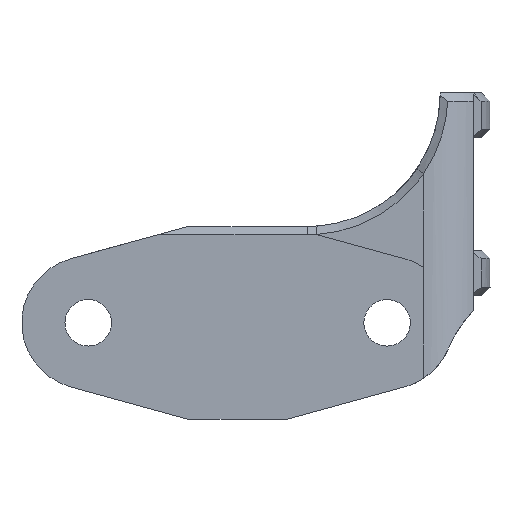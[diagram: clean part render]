
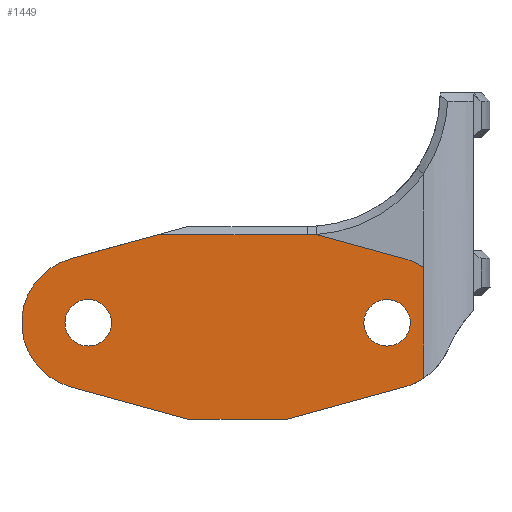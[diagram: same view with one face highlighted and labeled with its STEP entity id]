
A CAD part, front view. The second image highlights one B-rep face of the part: STEP entity #1449.
In plain terms, the highlighted planar face has unit normal (0, -1, 0).
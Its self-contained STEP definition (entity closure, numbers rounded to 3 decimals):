
#377=AXIS2_PLACEMENT_3D('Circle Axis2P3D',#375,#376,$) ;
#403=AXIS2_PLACEMENT_3D('Circle Axis2P3D',#401,#402,$) ;
#441=AXIS2_PLACEMENT_3D('Circle Axis2P3D',#439,#440,$) ;
#465=AXIS2_PLACEMENT_3D('Circle Axis2P3D',#463,#464,$) ;
#620=AXIS2_PLACEMENT_3D('Circle Axis2P3D',#618,#619,$) ;
#920=AXIS2_PLACEMENT_3D('Circle Axis2P3D',#918,#919,$) ;
#1382=AXIS2_PLACEMENT_3D('Plane Axis2P3D',#1379,#1380,#1381) ;
#1396=AXIS2_PLACEMENT_3D('Circle Axis2P3D',#1394,#1395,$) ;
#1403=AXIS2_PLACEMENT_3D('Circle Axis2P3D',#1401,#1402,$) ;
#1417=AXIS2_PLACEMENT_3D('Circle Axis2P3D',#1415,#1416,$) ;
#370=CARTESIAN_POINT('Vertex',(-27.658,-11.299,14.927)) ;
#375=CARTESIAN_POINT('Axis2P3D Location',(-26.258,-11.299,14.927)) ;
#379=CARTESIAN_POINT('Vertex',(-24.858,-11.299,14.927)) ;
#401=CARTESIAN_POINT('Axis2P3D Location',(-26.258,-11.299,14.927)) ;
#436=CARTESIAN_POINT('Vertex',(-7.03,-11.299,15.599)) ;
#439=CARTESIAN_POINT('Axis2P3D Location',(-8.258,-11.299,14.927)) ;
#443=CARTESIAN_POINT('Vertex',(-9.487,-11.299,14.256)) ;
#463=CARTESIAN_POINT('Axis2P3D Location',(-8.258,-11.299,14.927)) ;
#484=CARTESIAN_POINT('Vertex',(-7.197,-11.299,11.071)) ;
#489=CARTESIAN_POINT('Line Origine',(-10.728,-11.299,10.099)) ;
#493=CARTESIAN_POINT('Vertex',(-14.258,-11.299,9.127)) ;
#527=CARTESIAN_POINT('Line Origine',(-17.258,-11.299,9.127)) ;
#531=CARTESIAN_POINT('Vertex',(-20.258,-11.299,9.127)) ;
#558=CARTESIAN_POINT('Line Origine',(-23.789,-11.299,10.099)) ;
#562=CARTESIAN_POINT('Vertex',(-27.32,-11.299,11.071)) ;
#618=CARTESIAN_POINT('Axis2P3D Location',(-26.258,-11.299,14.927)) ;
#622=CARTESIAN_POINT('Vertex',(-27.32,-11.299,18.784)) ;
#918=CARTESIAN_POINT('Axis2P3D Location',(-8.258,-11.299,14.927)) ;
#922=CARTESIAN_POINT('Vertex',(-6.054,-11.299,11.589)) ;
#1333=CARTESIAN_POINT('Vertex',(-22.075,-11.299,20.227)) ;
#1341=CARTESIAN_POINT('Line Origine',(-24.697,-11.299,19.506)) ;
#1379=CARTESIAN_POINT('Axis2P3D Location',(0.,-11.299,0.)) ;
#1385=CARTESIAN_POINT('Control Point',(-6.055,-11.299,18.266)) ;
#1386=CARTESIAN_POINT('Control Point',(-6.055,-11.299,16.931)) ;
#1387=CARTESIAN_POINT('Control Point',(-6.055,-11.299,15.595)) ;
#1388=CARTESIAN_POINT('Control Point',(-6.054,-11.299,14.26)) ;
#1389=CARTESIAN_POINT('Control Point',(-6.054,-11.299,12.925)) ;
#1390=CARTESIAN_POINT('Control Point',(-6.054,-11.299,11.589)) ;
#1391=CARTESIAN_POINT('Vertex',(-6.055,-11.299,18.266)) ;
#1394=CARTESIAN_POINT('Axis2P3D Location',(-8.258,-11.299,14.927)) ;
#1398=CARTESIAN_POINT('Vertex',(-6.056,-11.299,18.267)) ;
#1401=CARTESIAN_POINT('Axis2P3D Location',(-8.258,-11.299,14.927)) ;
#1405=CARTESIAN_POINT('Vertex',(-7.197,-11.299,18.784)) ;
#1408=CARTESIAN_POINT('Line Origine',(-9.852,-11.299,19.515)) ;
#1412=CARTESIAN_POINT('Vertex',(-12.507,-11.299,20.245)) ;
#1415=CARTESIAN_POINT('Axis2P3D Location',(-13.058,-11.299,28.727)) ;
#1419=CARTESIAN_POINT('Vertex',(-13.058,-11.299,20.227)) ;
#1422=CARTESIAN_POINT('Line Origine',(-17.567,-11.299,20.227)) ;
#376=DIRECTION('Axis2P3D Direction',(0.,-1.,0.)) ;
#402=DIRECTION('Axis2P3D Direction',(0.,-1.,0.)) ;
#440=DIRECTION('Axis2P3D Direction',(0.,-1.,0.)) ;
#464=DIRECTION('Axis2P3D Direction',(0.,-1.,0.)) ;
#490=DIRECTION('Vector Direction',(0.964,0.,0.265)) ;
#528=DIRECTION('Vector Direction',(1.,0.,0.)) ;
#559=DIRECTION('Vector Direction',(0.964,0.,-0.265)) ;
#619=DIRECTION('Axis2P3D Direction',(0.,-1.,0.)) ;
#919=DIRECTION('Axis2P3D Direction',(0.,-1.,0.)) ;
#1342=DIRECTION('Vector Direction',(-0.964,0.,-0.265)) ;
#1380=DIRECTION('Axis2P3D Direction',(0.,-1.,0.)) ;
#1381=DIRECTION('Axis2P3D XDirection',(1.,0.,0.)) ;
#1395=DIRECTION('Axis2P3D Direction',(0.,-1.,0.)) ;
#1402=DIRECTION('Axis2P3D Direction',(0.,-1.,0.)) ;
#1409=DIRECTION('Vector Direction',(-0.964,0.,0.265)) ;
#1416=DIRECTION('Axis2P3D Direction',(0.,-1.,0.)) ;
#1423=DIRECTION('Vector Direction',(1.,0.,0.)) ;
#491=VECTOR('Line Direction',#490,1.) ;
#529=VECTOR('Line Direction',#528,1.) ;
#560=VECTOR('Line Direction',#559,1.) ;
#1343=VECTOR('Line Direction',#1342,1.) ;
#1410=VECTOR('Line Direction',#1409,1.) ;
#1424=VECTOR('Line Direction',#1423,1.) ;
#1428=ORIENTED_EDGE('',*,*,#1345,.T.) ;
#1429=ORIENTED_EDGE('',*,*,#624,.T.) ;
#1430=ORIENTED_EDGE('',*,*,#564,.T.) ;
#1431=ORIENTED_EDGE('',*,*,#533,.T.) ;
#1432=ORIENTED_EDGE('',*,*,#495,.T.) ;
#1433=ORIENTED_EDGE('',*,*,#924,.T.) ;
#1434=ORIENTED_EDGE('',*,*,#1393,.F.) ;
#1435=ORIENTED_EDGE('',*,*,#1400,.T.) ;
#1436=ORIENTED_EDGE('',*,*,#1407,.T.) ;
#1437=ORIENTED_EDGE('',*,*,#1414,.F.) ;
#1438=ORIENTED_EDGE('',*,*,#1421,.T.) ;
#1439=ORIENTED_EDGE('',*,*,#1426,.T.) ;
#1442=ORIENTED_EDGE('',*,*,#405,.F.) ;
#1443=ORIENTED_EDGE('',*,*,#381,.F.) ;
#1446=ORIENTED_EDGE('',*,*,#445,.F.) ;
#1447=ORIENTED_EDGE('',*,*,#467,.F.) ;
#1444=FACE_BOUND('',#1441,.T.) ;
#1448=FACE_BOUND('',#1445,.T.) ;
#1449=ADVANCED_FACE('Body.3',(#1440,#1444,#1448),#1383,.T.) ;
#1384=B_SPLINE_CURVE_WITH_KNOTS('',5,(#1385,#1386,#1387,#1388,#1389,#1390),.UNSPECIFIED.,.F.,.U.,(6,6),(3.481,12.923),.UNSPECIFIED.) ;
#378=CIRCLE('generated circle',#377,1.4) ;
#404=CIRCLE('generated circle',#403,1.4) ;
#442=CIRCLE('generated circle',#441,1.4) ;
#466=CIRCLE('generated circle',#465,1.4) ;
#621=CIRCLE('generated circle',#620,4.) ;
#921=CIRCLE('generated circle',#920,4.) ;
#1397=CIRCLE('generated circle',#1396,4.) ;
#1404=CIRCLE('generated circle',#1403,4.) ;
#1418=CIRCLE('generated circle',#1417,8.5) ;
#381=EDGE_CURVE('',#371,#380,#378,.T.) ;
#405=EDGE_CURVE('',#380,#371,#404,.T.) ;
#445=EDGE_CURVE('',#437,#444,#442,.T.) ;
#467=EDGE_CURVE('',#444,#437,#466,.T.) ;
#495=EDGE_CURVE('',#494,#485,#492,.T.) ;
#533=EDGE_CURVE('',#532,#494,#530,.T.) ;
#564=EDGE_CURVE('',#563,#532,#561,.T.) ;
#624=EDGE_CURVE('',#623,#563,#621,.T.) ;
#924=EDGE_CURVE('',#485,#923,#921,.T.) ;
#1345=EDGE_CURVE('',#1334,#623,#1344,.T.) ;
#1393=EDGE_CURVE('',#1392,#923,#1384,.T.) ;
#1400=EDGE_CURVE('',#1392,#1399,#1397,.T.) ;
#1407=EDGE_CURVE('',#1399,#1406,#1404,.T.) ;
#1414=EDGE_CURVE('',#1413,#1406,#1411,.F.) ;
#1421=EDGE_CURVE('',#1413,#1420,#1418,.F.) ;
#1426=EDGE_CURVE('',#1420,#1334,#1425,.F.) ;
#1427=EDGE_LOOP('',(#1428,#1429,#1430,#1431,#1432,#1433,#1434,#1435,#1436,#1437,#1438,#1439)) ;
#1441=EDGE_LOOP('',(#1442,#1443)) ;
#1445=EDGE_LOOP('',(#1446,#1447)) ;
#1440=FACE_OUTER_BOUND('',#1427,.T.) ;
#492=LINE('Line',#489,#491) ;
#530=LINE('Line',#527,#529) ;
#561=LINE('Line',#558,#560) ;
#1344=LINE('Line',#1341,#1343) ;
#1411=LINE('Line',#1408,#1410) ;
#1425=LINE('Line',#1422,#1424) ;
#1383=PLANE('',#1382) ;
#371=VERTEX_POINT('',#370) ;
#380=VERTEX_POINT('',#379) ;
#437=VERTEX_POINT('',#436) ;
#444=VERTEX_POINT('',#443) ;
#485=VERTEX_POINT('',#484) ;
#494=VERTEX_POINT('',#493) ;
#532=VERTEX_POINT('',#531) ;
#563=VERTEX_POINT('',#562) ;
#623=VERTEX_POINT('',#622) ;
#923=VERTEX_POINT('',#922) ;
#1334=VERTEX_POINT('',#1333) ;
#1392=VERTEX_POINT('',#1391) ;
#1399=VERTEX_POINT('',#1398) ;
#1406=VERTEX_POINT('',#1405) ;
#1413=VERTEX_POINT('',#1412) ;
#1420=VERTEX_POINT('',#1419) ;
